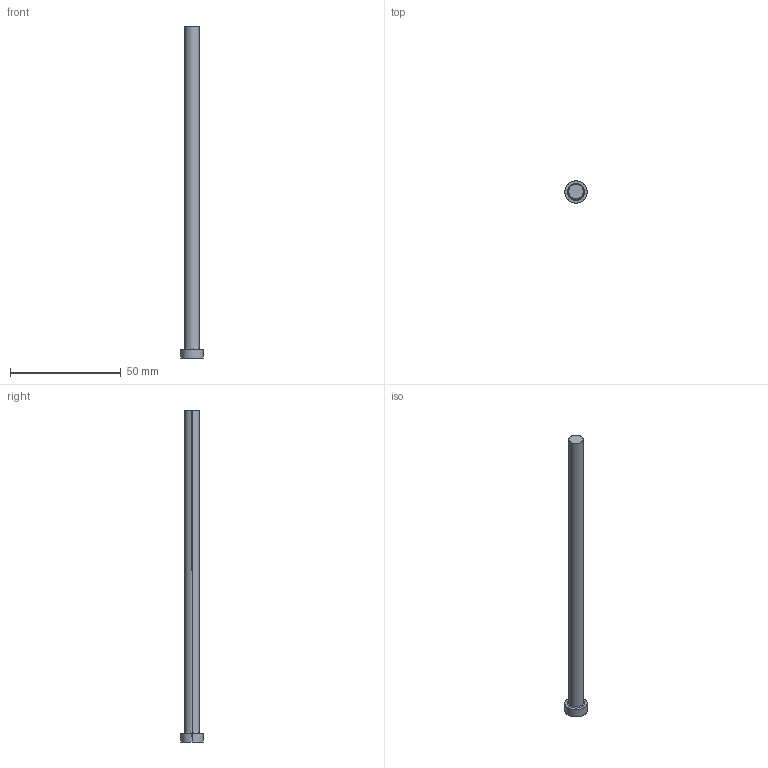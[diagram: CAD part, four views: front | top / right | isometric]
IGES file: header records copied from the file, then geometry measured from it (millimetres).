
Start section: SolidWorks IGES file using analytic representation for surfaces
Global section: file name: D:\Current\W1-2\EPH\EPH6.6-150.igs; native system: SolidWorks 2017; preprocessor: SolidWorks 2017; author: Ravi Kalvai; date: 240411.171411; units: millimetre
Bounding box: 10 x 10 x 150 mm (x, y, z)
Surface area: 3305.6 mm2 (no closed solid volume)
Topology: 0 solids, 0 shells, 9 faces, 152 edges, 152 vertices
Faces by surface type: bspline 5, revolution 4
